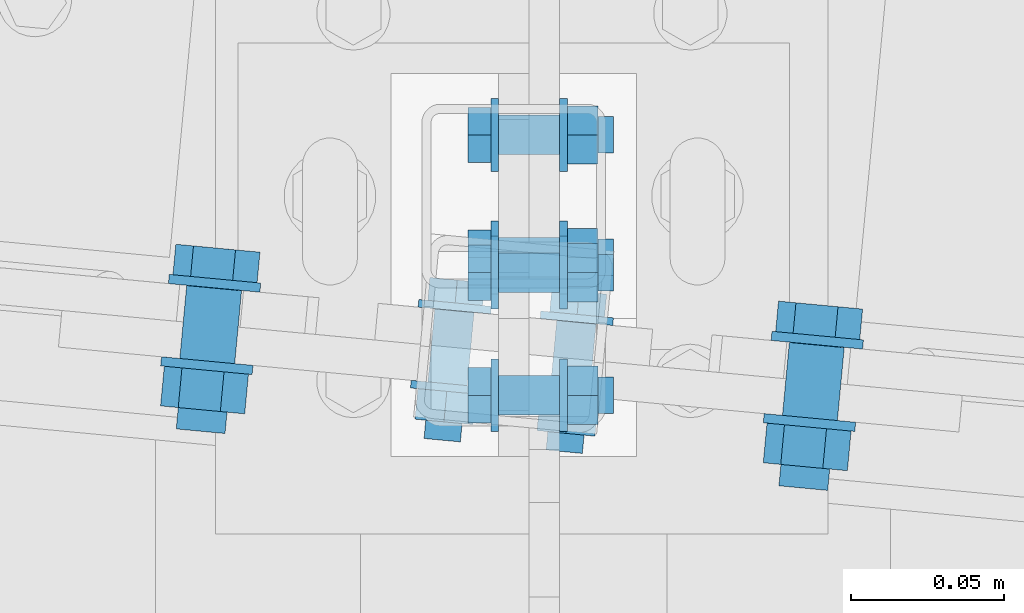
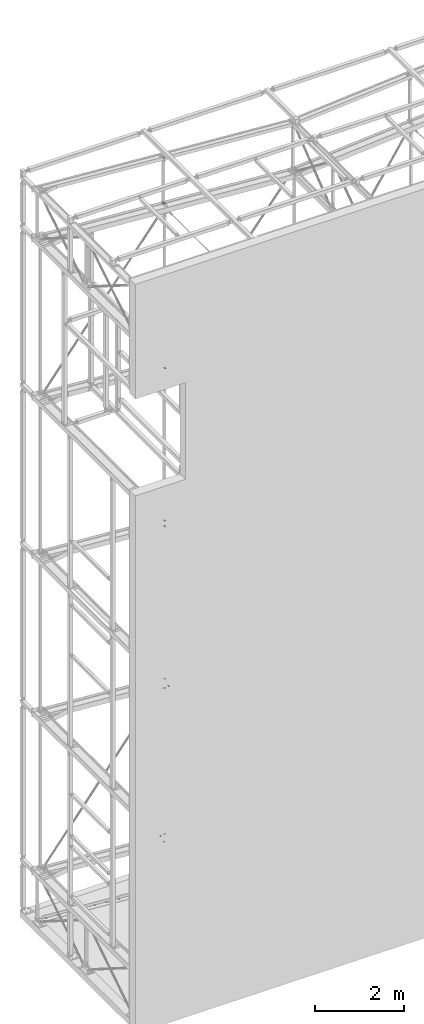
# One storey, part 254 of 271: 11 mechanical fasteners, 7 elements without a shape of their own.
"""IFC2X3 building model written with IfcOpenShell, lengths in millimetres."""

from ifc_helpers import new_model, si_unit, frame, origin_with_axes, origin_2d_with_axis, place, context, subcontext, project, spatial, polyline, circle, outline, extrude, source, transform, mapped, material, type_object, element, aggregate, save


model = new_model("IFC2X3")

# Units and contexts
model_context = context("Model", 3, precision=1e-05, world=origin_with_axes())
body_context = subcontext(model_context, "Body", "Model", "MODEL_VIEW")
ifc_project = project(units=[si_unit("LENGTHUNIT", "METRE", prefix="MILLI"), si_unit("AREAUNIT", "SQUARE_METRE"), si_unit("VOLUMEUNIT", "CUBIC_METRE"), si_unit("MASSUNIT", "GRAM", prefix="KILO"), si_unit("TIMEUNIT", "SECOND"), si_unit("PLANEANGLEUNIT", "RADIAN"), si_unit("SOLIDANGLEUNIT", "STERADIAN"), si_unit("THERMODYNAMICTEMPERATUREUNIT", "DEGREE_CELSIUS"), si_unit("LUMINOUSINTENSITYUNIT", "LUMEN")], contexts=[model_context])

# Site, building, storey
site_placement = place(None, origin_with_axes())
site = spatial("IfcSite", under=ifc_project, at=site_placement, Name="Undefined", CompositionType="ELEMENT")
building_placement = place(site_placement, origin_with_axes())
building = spatial("IfcBuilding", under=site, at=building_placement, Name="Undefined", CompositionType="ELEMENT")
storey_placement = place(building_placement, origin_with_axes())
storey = spatial("IfcBuildingStorey", under=building, at=storey_placement, Name="Undefined", CompositionType="ELEMENT", Elevation=0.0)

# Assembly, mechanical fastener
assembly_1_placement = place(storey_placement, origin_with_axes())
assembly_1 = element("IfcElementAssembly", 1, at=assembly_1_placement, inside=storey, AssemblyPlace="NOTDEFINED", PredefinedType="RIGID_FRAME")
ifc_material = material(Name="Undefined")
mechanical_fastener_type = type_object("IfcMechanicalFastenerType", Name="Bolt assembly")
shared_shape_1 = source(origin_with_axes(), body_context, "Body", "SweptSolid", [
    extrude(circle(Radius=6.5, at=origin_2d_with_axis()), frame((0.0, -5.1, 0.0), z_axis=(0.0, 1.0, 0.0), x_axis=(1.0, 0.0, 0.0)), (0.0, 0.0, 1.0), 10.1),
    extrude(circle(Radius=6.5, at=origin_2d_with_axis()), frame((0.0, -14.9000000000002, 0.0), z_axis=(0.0, 1.0, 0.0), x_axis=(1.0, 0.0, 0.0)), (0.0, 0.0, 1.0), 10.0),
    extrude(outline(polyline([(10.39230484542, 0.0), (5.19615242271, 9.00000000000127), (-5.19615242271, 9.00000000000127), (-10.39230484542, 0.0), (-5.19615242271, -9.00000000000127), (5.19615242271, -9.00000000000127), (10.39230484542, 0.0)])), frame((0.0, -25.0000000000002, 0.0), z_axis=(0.0, 1.0, 0.0), x_axis=(1.0, 0.0, 0.0)), (0.0, 0.0, 1.0), 7.5),
    extrude(circle(Radius=6.0, at=origin_2d_with_axis()), frame((0.0, -17.5000000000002, 0.0), z_axis=(0.0, 1.0, 0.0), x_axis=(1.0, 0.0, 0.0)), (0.0, 0.0, 1.0), 40.0),
    extrude(circle(Radius=12.0, at=origin_2d_with_axis()), frame((0.0, -17.5000000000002, 0.0), z_axis=(0.0, 1.0, 0.0), x_axis=(1.0, 0.0, 0.0)), (0.0, 0.0, 1.0), 2.5),
    extrude(circle(Radius=12.0, at=origin_2d_with_axis()), frame((0.0, 5.00000000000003, 0.0), z_axis=(0.0, 1.0, 0.0), x_axis=(1.0, 0.0, 0.0)), (0.0, 0.0, 1.0), 2.5),
    extrude(outline(polyline([(10.96965511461, 0.0), (5.484827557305, 9.50000000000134), (-5.484827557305, 9.50000000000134), (-10.96965511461, 0.0), (-5.484827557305, -9.50000000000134), (5.484827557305, -9.50000000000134), (10.96965511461, 0.0)])), frame((0.0, 7.50000000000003, 0.0), z_axis=(0.0, 1.0, 0.0), x_axis=(1.0, 0.0, 0.0)), (0.0, 0.0, 1.0), 10.0),
])
mechanical_fastener_1_placement = place(assembly_1_placement, frame((3178.37568709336, 4050.32498425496, 19946.399999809), z_axis=(0.0, -1.0, 0.0), x_axis=(0.0, 0.0, -1.0)))
mechanical_fastener_1 = element("IfcMechanicalFastener", 2, at=mechanical_fastener_1_placement, type_object=mechanical_fastener_type, material=ifc_material, Name="Bolt assembly", NominalDiameter=12.0, NominalLength=40.0, context=body_context, shape_type="MappedRepresentation", body=[
    mapped(shared_shape_1, transform((0.0, 0.0, -20.0))),
    mapped(shared_shape_1, transform((0.0, 0.0, 20.0))),
])

assembly_2_placement = place(storey_placement, origin_with_axes())
assembly_2 = element("IfcElementAssembly", 3, at=assembly_2_placement, inside=storey, AssemblyPlace="NOTDEFINED", PredefinedType="RIGID_FRAME")
mechanical_fastener_2_placement = place(assembly_2_placement, frame((3178.37568709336, 4050.32498425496, 1285.74999995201), z_axis=(0.0, -1.0, 0.0), x_axis=(0.0, 0.0, -1.0)))
mechanical_fastener_2 = element("IfcMechanicalFastener", 4, at=mechanical_fastener_2_placement, type_object=mechanical_fastener_type, material=ifc_material, Name="Bolt assembly", NominalDiameter=12.0, NominalLength=40.0, context=body_context, shape_type="MappedRepresentation", body=[
    mapped(shared_shape_1, transform((0.0, 0.0, -20.0))),
    mapped(shared_shape_1, transform((0.0, 0.0, 20.0))),
])
aggregate(assembly_2, [mechanical_fastener_2])

# Assembly, mechanical fasteners
assembly_3_placement = place(storey_placement, origin_with_axes())
assembly_3 = element("IfcElementAssembly", 5, at=assembly_3_placement, inside=storey, AssemblyPlace="NOTDEFINED", PredefinedType="RIGID_FRAME")
mechanical_fastener_3_placement = place(assembly_3_placement, frame((3178.37568709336, 4005.32498425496, 5762.94999985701), z_axis=(0.0, 1.0, 0.0), x_axis=(0.0, 0.0, 1.0)))
mechanical_fastener_3 = element("IfcMechanicalFastener", 6, at=mechanical_fastener_3_placement, type_object=mechanical_fastener_type, material=ifc_material, Name="Bolt assembly", NominalDiameter=12.0, NominalLength=40.0, context=body_context, shape_type="MappedRepresentation", body=[
    mapped(shared_shape_1, transform((0.0, 0.0, -20.0))),
    mapped(shared_shape_1, transform((0.0, 0.0, 20.0))),
])
mechanical_fastener_4_placement = place(assembly_3_placement, frame((3178.37568709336, 4005.32498425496, 9925.74999995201), z_axis=(0.0, -1.0, 0.0), x_axis=(0.0, 0.0, -1.0)))
mechanical_fastener_4 = element("IfcMechanicalFastener", 7, at=mechanical_fastener_4_placement, type_object=mechanical_fastener_type, material=ifc_material, Name="Bolt assembly", NominalDiameter=12.0, NominalLength=40.0, context=body_context, shape_type="MappedRepresentation", body=[
    mapped(shared_shape_1, transform((0.0, 0.0, -20.0))),
    mapped(shared_shape_1, transform((0.0, 0.0, 20.0))),
])
aggregate(assembly_3, [mechanical_fastener_3, mechanical_fastener_4])

assembly_4_placement = place(storey_placement, origin_with_axes())
assembly_4 = element("IfcElementAssembly", 8, at=assembly_4_placement, inside=storey, AssemblyPlace="NOTDEFINED", PredefinedType="RIGID_FRAME")
mechanical_fastener_5_placement = place(assembly_4_placement, frame((3178.37568709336, 4005.32498425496, 10082.949999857), z_axis=(0.0, 1.0, 0.0), x_axis=(0.0, 0.0, 1.0)))
mechanical_fastener_5 = element("IfcMechanicalFastener", 9, at=mechanical_fastener_5_placement, type_object=mechanical_fastener_type, material=ifc_material, Name="Bolt assembly", NominalDiameter=12.0, NominalLength=40.0, context=body_context, shape_type="MappedRepresentation", body=[
    mapped(shared_shape_1, transform((0.0, 0.0, -20.0))),
    mapped(shared_shape_1, transform((0.0, 0.0, 20.0))),
])
mechanical_fastener_6_placement = place(assembly_4_placement, frame((3178.37568709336, 4005.32498425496, 14245.749999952), z_axis=(0.0, -1.0, 0.0), x_axis=(0.0, 0.0, -1.0)))
mechanical_fastener_6 = element("IfcMechanicalFastener", 10, at=mechanical_fastener_6_placement, type_object=mechanical_fastener_type, material=ifc_material, Name="Bolt assembly", NominalDiameter=12.0, NominalLength=40.0, context=body_context, shape_type="MappedRepresentation", body=[
    mapped(shared_shape_1, transform((0.0, 0.0, -20.0))),
    mapped(shared_shape_1, transform((0.0, 0.0, 20.0))),
])
aggregate(assembly_4, [mechanical_fastener_5, mechanical_fastener_6])

# Mechanical fastener
mechanical_fastener_7_placement = place(assembly_1_placement, frame((3178.37568709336, 4050.32498425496, 18722.949999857), z_axis=(0.0, 1.0, 0.0), x_axis=(0.0, 0.0, 1.0)))
mechanical_fastener_7 = element("IfcMechanicalFastener", 11, at=mechanical_fastener_7_placement, type_object=mechanical_fastener_type, material=ifc_material, Name="Bolt assembly", NominalDiameter=12.0, NominalLength=40.0, context=body_context, shape_type="MappedRepresentation", body=[
    mapped(shared_shape_1, transform((0.0, 0.0, -20.0))),
    mapped(shared_shape_1, transform((0.0, 0.0, 20.0))),
])

aggregate(assembly_1, [mechanical_fastener_1, mechanical_fastener_7])

# Assembly, mechanical fasteners
assembly_5_placement = place(storey_placement, origin_with_axes())
assembly_5 = element("IfcElementAssembly", 12, at=assembly_5_placement, inside=storey, AssemblyPlace="NOTDEFINED", PredefinedType="RIGID_FRAME")
shared_shape_2 = source(origin_with_axes(), body_context, "Body", "SweptSolid", [
    extrude(circle(Radius=6.5, at=origin_2d_with_axis()), frame((0.0, -6.1, 0.0), z_axis=(0.0, 1.0, 0.0), x_axis=(1.0, 0.0, 0.0)), (0.0, 0.0, 1.0), 12.1),
    extrude(circle(Radius=6.5, at=origin_2d_with_axis()), frame((0.0, -17.9, 0.0), z_axis=(0.0, 1.0, 0.0), x_axis=(1.0, 0.0, 0.0)), (0.0, 0.0, 1.0), 12.0),
    extrude(outline(polyline([(10.39230484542, 0.0), (5.19615242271, 9.00000000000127), (-5.19615242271, 9.00000000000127), (-10.39230484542, 0.0), (-5.19615242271, -9.00000000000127), (5.19615242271, -9.00000000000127), (10.39230484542, 0.0)])), frame((0.0, -28.0, 0.0), z_axis=(0.0, 1.0, 0.0), x_axis=(1.0, 0.0, 0.0)), (0.0, 0.0, 1.0), 7.5),
    extrude(circle(Radius=6.0, at=origin_2d_with_axis()), frame((0.0, -20.5, 0.0), z_axis=(0.0, 1.0, 0.0), x_axis=(1.0, 0.0, 0.0)), (0.0, 0.0, 1.0), 45.0),
    extrude(circle(Radius=12.0, at=origin_2d_with_axis()), frame((0.0, -20.5, 0.0), z_axis=(0.0, 1.0, 0.0), x_axis=(1.0, 0.0, 0.0)), (0.0, 0.0, 1.0), 2.5),
    extrude(circle(Radius=12.0, at=origin_2d_with_axis()), frame((0.0, 6.0, 0.0), z_axis=(0.0, 1.0, 0.0), x_axis=(1.0, 0.0, 0.0)), (0.0, 0.0, 1.0), 2.5),
    extrude(outline(polyline([(10.96965511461, 0.0), (5.484827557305, 9.50000000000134), (-5.484827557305, 9.50000000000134), (-10.96965511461, 0.0), (-5.484827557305, -9.50000000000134), (5.484827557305, -9.50000000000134), (10.96965511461, 0.0)])), frame((0.0, 8.5, 0.0), z_axis=(0.0, 1.0, 0.0), x_axis=(1.0, 0.0, 0.0)), (0.0, 0.0, 1.0), 10.0),
])
mechanical_fastener_8_placement = place(assembly_5_placement, frame((3167.22847528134, 3993.1645390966, 5521.03851008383), z_axis=(-0.995579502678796, 0.0939225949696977, 0.0), x_axis=(0.0, 0.0, -1.0)))
mechanical_fastener_8 = element("IfcMechanicalFastener", 13, at=mechanical_fastener_8_placement, type_object=mechanical_fastener_type, material=ifc_material, Name="Bolt assembly", NominalDiameter=12.0, NominalLength=45.0, context=body_context, shape_type="MappedRepresentation", body=[
    mapped(shared_shape_2, transform((0.0, 0.0, -20.0))),
    mapped(shared_shape_2, transform((0.0, 0.0, 20.0))),
])
mechanical_fastener_9_placement = place(assembly_5_placement, frame((3167.22989849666, 3993.17962517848, 1527.66261887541), z_axis=(0.995579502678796, -0.0939225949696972, 0.0), x_axis=(0.0, 0.0, 1.0)))
mechanical_fastener_9 = element("IfcMechanicalFastener", 14, at=mechanical_fastener_9_placement, type_object=mechanical_fastener_type, material=ifc_material, Name="Bolt assembly", NominalDiameter=12.0, NominalLength=45.0, context=body_context, shape_type="MappedRepresentation", body=[
    mapped(shared_shape_2, transform((0.0, 0.0, -20.0))),
    mapped(shared_shape_2, transform((0.0, 0.0, 20.0))),
])
aggregate(assembly_5, [mechanical_fastener_8, mechanical_fastener_9])

# Assembly, mechanical fastener
assembly_6_placement = place(storey_placement, origin_with_axes())
assembly_6 = element("IfcElementAssembly", 15, at=assembly_6_placement, inside=storey, AssemblyPlace="NOTDEFINED", PredefinedType="RIGID_FRAME")
shared_shape_3 = source(origin_with_axes(), body_context, "Body", "SweptSolid", [
    extrude(circle(Radius=9.0, at=origin_2d_with_axis()), frame((0.0, -6.10886097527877, 0.0), z_axis=(0.0, 1.0, 0.0), x_axis=(1.0, 0.0, 0.0)), (0.0, 0.0, 1.0), 12.1),
    extrude(circle(Radius=9.0, at=origin_2d_with_axis()), frame((0.0, -17.9116983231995, 0.0), z_axis=(0.0, 1.0, 0.0), x_axis=(1.0, 0.0, 0.0)), (0.0, 0.0, 1.0), 12.0),
    extrude(outline(polyline([(13.85640646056, 0.0), (6.92820323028, 12.0000000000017), (-6.92820323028, 12.0000000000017), (-13.85640646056, 0.0), (-6.92820323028, -12.0000000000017), (6.92820323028, -12.0000000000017), (13.85640646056, 0.0)])), frame((0.0, -31.0116983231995, 0.0), z_axis=(0.0, 1.0, 0.0), x_axis=(1.0, 0.0, 0.0)), (0.0, 0.0, 1.0), 10.0),
    extrude(circle(Radius=8.0, at=origin_2d_with_axis()), frame((0.0, -21.0116983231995, 0.0), z_axis=(0.0, 1.0, 0.0), x_axis=(1.0, 0.0, 0.0)), (0.0, 0.0, 1.0), 50.0),
    extrude(circle(Radius=15.0, at=origin_2d_with_axis()), frame((0.0, -21.0116983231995, 0.0), z_axis=(0.0, 1.0, 0.0), x_axis=(1.0, 0.0, 0.0)), (0.0, 0.0, 1.0), 3.0),
    extrude(circle(Radius=15.0, at=origin_2d_with_axis()), frame((0.0, 5.99113906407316, 0.0), z_axis=(0.0, 1.0, 0.0), x_axis=(1.0, 0.0, 0.0)), (0.0, 0.0, 1.0), 3.0),
    extrude(outline(polyline([(13.85640646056, 0.0), (6.92820323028, 12.0000000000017), (-6.92820323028, 12.0000000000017), (-13.85640646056, 0.0), (-6.92820323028, -12.0000000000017), (6.92820323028, -12.0000000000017), (13.85640646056, 0.0)])), frame((0.0, 8.99113906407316, 0.0), z_axis=(0.0, 1.0, 0.0), x_axis=(1.0, 0.0, 0.0)), (0.0, 0.0, 1.0), 13.0),
])
mechanical_fastener_10_placement = place(assembly_6_placement, frame((3068.87383030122, 4002.44959372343, 1503.87309254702), z_axis=(0.812518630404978, -0.0766527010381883, 0.577873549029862), x_axis=(-0.575326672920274, 0.0541946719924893, 0.816126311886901)))
mechanical_fastener_10 = element("IfcMechanicalFastener", 16, at=mechanical_fastener_10_placement, type_object=mechanical_fastener_type, material=ifc_material, Name="Bolt assembly", NominalDiameter=16.0, NominalLength=50.0, context=body_context, shape_type="MappedRepresentation", body=[
    mapped(shared_shape_3, transform((0.0, 0.0, 0.0))),
])
aggregate(assembly_6, [mechanical_fastener_10])

assembly_7_placement = place(storey_placement, origin_with_axes())
assembly_7 = element("IfcElementAssembly", 17, at=assembly_7_placement, inside=storey, AssemblyPlace="NOTDEFINED", PredefinedType="RIGID_FRAME")
shared_shape_4 = source(origin_with_axes(), body_context, "Body", "SweptSolid", [
    extrude(circle(Radius=9.0, at=origin_2d_with_axis()), frame((0.0, -6.108183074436, 0.0), z_axis=(0.0, 1.0, 0.0), x_axis=(1.0, 0.0, 0.0)), (0.0, 0.0, 1.0), 12.1),
    extrude(circle(Radius=9.0, at=origin_2d_with_axis()), frame((0.0, -17.9108111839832, 0.0), z_axis=(0.0, 1.0, 0.0), x_axis=(1.0, 0.0, 0.0)), (0.0, 0.0, 1.0), 12.0),
    extrude(outline(polyline([(13.85640646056, 0.0), (6.92820323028, 12.0000000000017), (-6.92820323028, 12.0000000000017), (-13.85640646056, 0.0), (-6.92820323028, -12.0000000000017), (6.92820323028, -12.0000000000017), (13.85640646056, 0.0)])), frame((0.0, -31.0108111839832, 0.0), z_axis=(0.0, 1.0, 0.0), x_axis=(1.0, 0.0, 0.0)), (0.0, 0.0, 1.0), 10.0),
    extrude(circle(Radius=8.0, at=origin_2d_with_axis()), frame((0.0, -21.0108111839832, 0.0), z_axis=(0.0, 1.0, 0.0), x_axis=(1.0, 0.0, 0.0)), (0.0, 0.0, 1.0), 50.0),
    extrude(circle(Radius=15.0, at=origin_2d_with_axis()), frame((0.0, -21.0108111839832, 0.0), z_axis=(0.0, 1.0, 0.0), x_axis=(1.0, 0.0, 0.0)), (0.0, 0.0, 1.0), 3.0),
    extrude(circle(Radius=15.0, at=origin_2d_with_axis()), frame((0.0, 5.99181695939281, 0.0), z_axis=(0.0, 1.0, 0.0), x_axis=(1.0, 0.0, 0.0)), (0.0, 0.0, 1.0), 3.0),
    extrude(outline(polyline([(13.85640646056, 0.0), (6.92820323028, 12.0000000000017), (-6.92820323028, 12.0000000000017), (-13.85640646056, 0.0), (-6.92820323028, -12.0000000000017), (6.92820323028, -12.0000000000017), (13.85640646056, 0.0)])), frame((0.0, 8.99181695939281, 0.0), z_axis=(0.0, 1.0, 0.0), x_axis=(1.0, 0.0, 0.0)), (0.0, 0.0, 1.0), 13.0),
])
mechanical_fastener_11_placement = place(assembly_7_placement, frame((3265.62426005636, 3983.87978446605, 5546.25612472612), z_axis=(-0.80959699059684, 0.0763770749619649, -0.581995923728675), x_axis=(0.579416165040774, -0.0547372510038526, -0.81319170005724)))
mechanical_fastener_11 = element("IfcMechanicalFastener", 18, at=mechanical_fastener_11_placement, type_object=mechanical_fastener_type, material=ifc_material, Name="Bolt assembly", NominalDiameter=16.0, NominalLength=50.0, context=body_context, shape_type="MappedRepresentation", body=[
    mapped(shared_shape_4, transform((0.0, 0.0, 0.0))),
])
aggregate(assembly_7, [mechanical_fastener_11])

save(model, "model.ifc")
